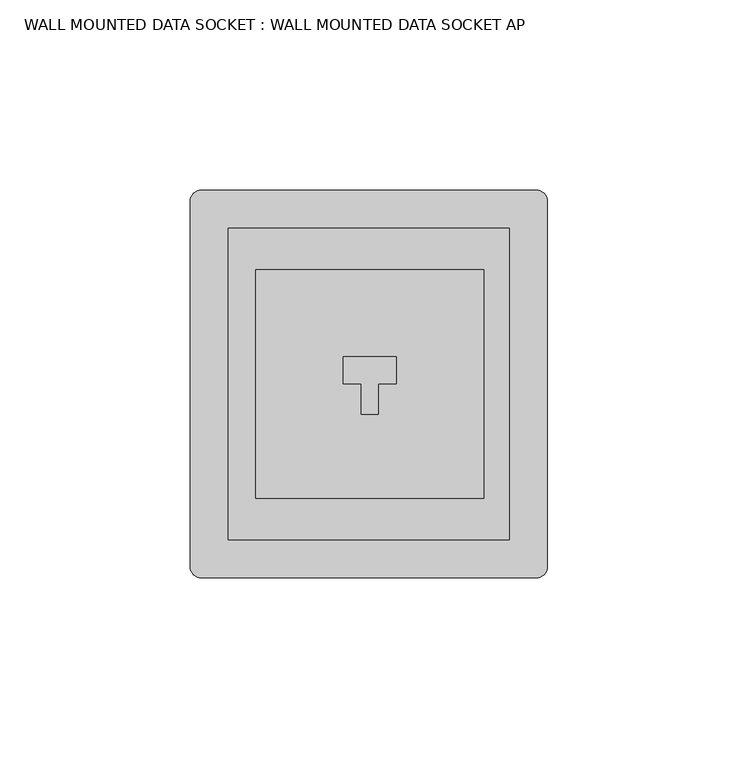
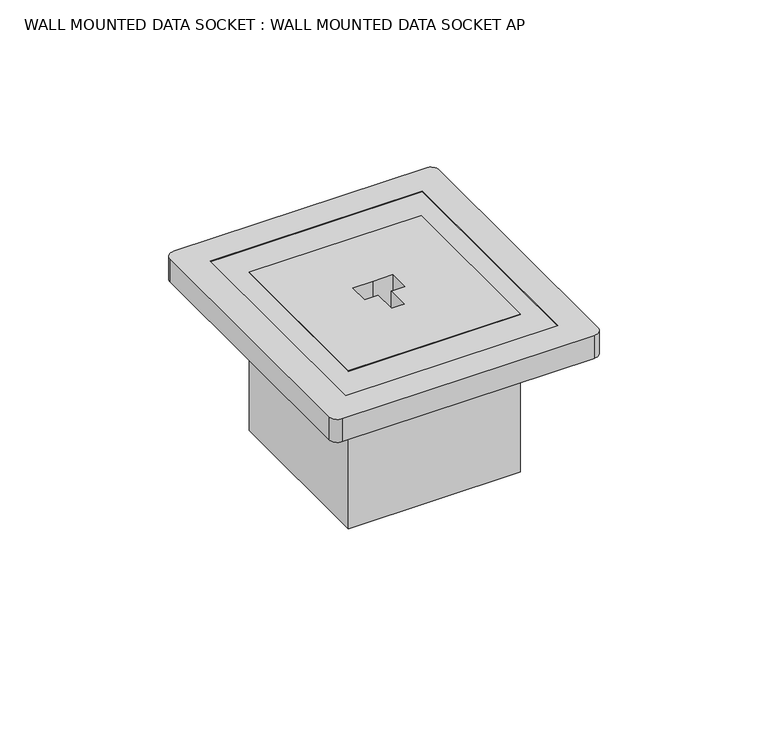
"""IFC4 building model written with IfcOpenShell, lengths in millimetres: electric appliance geometry, WALL MOUNTED DATA SOCKET : WALL MOUNTED DATA SOCKET AP."""

from ifc_helpers import new_model, si_unit, point, frame, frame_2d, origin, origin_with_axes, place, context, project, spatial, polyline, circle_curve, trimmed, segment, composite_curve, outline, extrude, source, transform, mapped, element, save


def wall_mounted_data_socket_wall_mounted_data_socket_ap_474314e8(model_context):
    return source(origin(), model_context, "Body", "SweptSolid", [
        extrude(outline(polyline([(-30.0, -30.0), (-30.0, 30.0), (30.0, 30.0), (30.0, -30.0), (-30.0, -30.0)])), frame((0.0, 0.0, -50.0), z_axis=(0.0, 0.0, 1.0), x_axis=(1.0, 0.0, 0.0)), (0.0, 0.0, 1.0), 33.5),
        extrude(outline(composite_curve([segment(trimmed(circle_curve(frame_2d((-44.25, 48.0)), 3.0), [point((-47.25, 48.0))], [point((-44.25, 51.0))], False, "CARTESIAN"), True, "CONTINUOUS"), segment(polyline([(-44.25, 51.0), (43.75, 51.0)]), True, "CONTINUOUS"), segment(trimmed(circle_curve(frame_2d((43.75, 48.0)), 3.0), [point((43.75, 51.0))], [point((46.75, 48.0))], False, "CARTESIAN"), True, "CONTINUOUS"), segment(polyline([(46.75, 48.0), (46.75, -48.0)]), True, "CONTINUOUS"), segment(trimmed(circle_curve(frame_2d((43.75, -48.0)), 3.0), [point((46.75, -48.0))], [point((43.75, -51.0))], False, "CARTESIAN"), True, "CONTINUOUS"), segment(polyline([(43.75, -51.0), (-44.25, -51.0)]), True, "CONTINUOUS"), segment(trimmed(circle_curve(frame_2d((-44.25, -48.0)), 3.0), [point((-44.25, -51.0))], [point((-47.25, -48.0))], False, "CARTESIAN"), True, "CONTINUOUS"), segment(polyline([(-47.25, -48.0), (-47.25, 48.0)]), True, "CONTINUOUS")], self_intersect=False), holes=[polyline([(-37.25, -41.0), (36.75, -41.0), (36.75, 41.0), (-37.25, 41.0), (-37.25, -41.0)])]), origin_with_axes(), (0.0, 0.0, 1.0), 8.5),
        extrude(outline(polyline([(-30.0, -30.0), (-30.0, 30.0), (30.0, 30.0), (30.0, -30.0), (-30.0, -30.0)]), holes=[polyline([(-2.230467, 0.0), (-2.230467, -8.0), (0.0, -8.0), (2.230467, -8.0), (2.230467, 0.0), (7.0, 0.0), (7.0, 7.1508508), (0.0, 7.1508508), (-7.0, 7.1508508), (-7.0, 0.0), (-2.230467, 0.0)])]), frame((0.0, 0.0, -16.5), z_axis=(0.0, 0.0, 1.0), x_axis=(1.0, 0.0, 0.0)), (0.0, 0.0, 1.0), 25.0),
        extrude(outline(polyline([(-37.25, -41.0), (-37.25, 41.0), (36.75, 41.0), (36.75, -41.0), (-37.25, -41.0)]), holes=[polyline([(30.0, 30.0), (-30.0, 30.0), (-30.0, -30.0), (30.0, -30.0), (30.0, 30.0)])]), origin_with_axes(), (0.0, 0.0, 1.0), 8.5),
    ])


if __name__ == "__main__":
    model = new_model("IFC4")
    model_context = context("Model", 3, world=origin())
    ifc_project = project(units=[si_unit("LENGTHUNIT", "METRE", prefix="MILLI")], contexts=[model_context])
    site = spatial("IfcSite", under=ifc_project)
    building = spatial("IfcBuilding", under=site)
    placement = place(None, origin())
    wall_mounted_data_socket_wall_mounted_data_socket_ap_shape = wall_mounted_data_socket_wall_mounted_data_socket_ap_474314e8(model_context)
    element("IfcElectricAppliance", 1, ObjectType="WALL MOUNTED DATA SOCKET : WALL MOUNTED DATA SOCKET AP", at=placement, inside=building, context=model_context, shape_type="MappedRepresentation", body=[
        mapped(wall_mounted_data_socket_wall_mounted_data_socket_ap_shape, transform((0.0, 0.0, 0.0), x_axis=(1.0, 0.0, 0.0), y_axis=(0.0, 1.0, 0.0), z_axis=(0.0, 0.0, 1.0))),
    ])
    save(model, "model.ifc")
